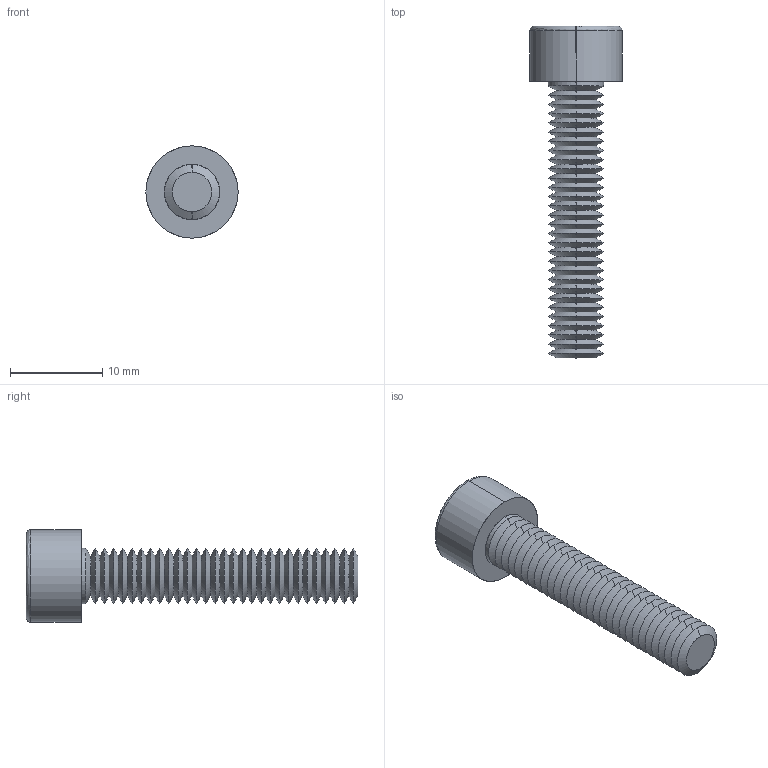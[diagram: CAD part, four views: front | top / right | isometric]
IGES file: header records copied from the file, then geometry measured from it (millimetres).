
Start section: SolidWorks IGES file using analytic representation for surfaces
Global section: file name: C:\Users\ianosborn\Desktop\N0007.91N_v2\N0007.91N_v2_20250519_IGES\91N.060.0300.igs; native system: SolidWorks 2019; preprocessor: SolidWorks 2019; author: IanOsborn; date: 250520.095312; units: millimetre
Bounding box: 10 x 36 x 10 mm (x, y, z)
Surface area: 1374.4 mm2 (no closed solid volume)
Topology: 0 solids, 0 shells, 148 faces, 789 edges, 787 vertices
Faces by surface type: revolution 131, bspline 17
